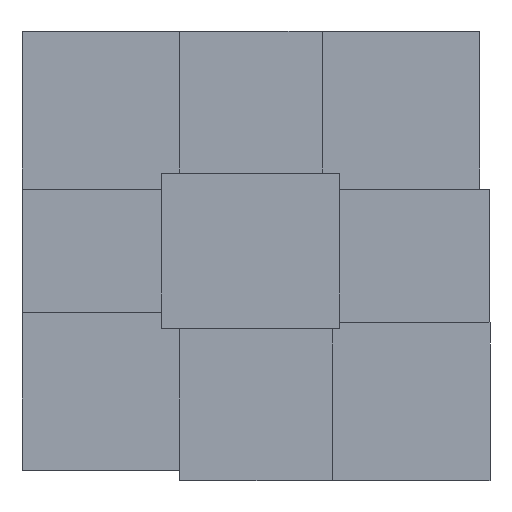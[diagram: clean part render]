
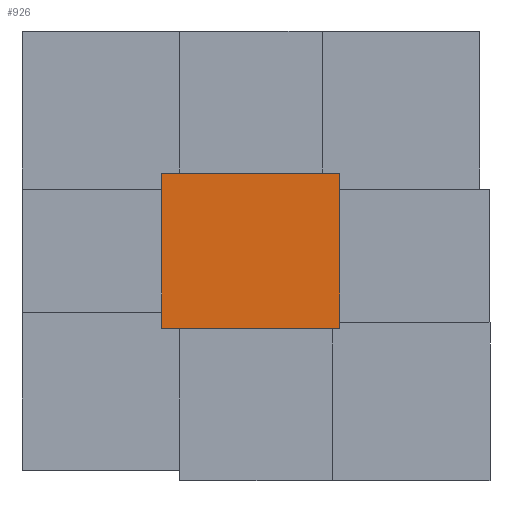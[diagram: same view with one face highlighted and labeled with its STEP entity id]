
A CAD part, left-side view. The second image highlights one B-rep face of the part: STEP entity #926.
In plain terms, the highlighted planar face has unit normal (-1, 0, 0).
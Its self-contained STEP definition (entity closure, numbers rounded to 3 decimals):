
#808=CARTESIAN_POINT('Line Origine',(0.,0.,49.)) ;
#812=CARTESIAN_POINT('Vertex',(0.,0.,0.)) ;
#814=CARTESIAN_POINT('Vertex',(0.,0.,98.)) ;
#883=CARTESIAN_POINT('Vertex',(0.,113.,0.)) ;
#886=CARTESIAN_POINT('Line Origine',(0.,113.,49.)) ;
#890=CARTESIAN_POINT('Vertex',(0.,113.,98.)) ;
#905=CARTESIAN_POINT('Axis2P3D Location',(0.,113.,0.)) ;
#910=CARTESIAN_POINT('Line Origine',(0.,56.5,0.)) ;
#915=CARTESIAN_POINT('Line Origine',(0.,56.5,98.)) ;
#809=DIRECTION('Vector Direction',(0.,0.,1.)) ;
#887=DIRECTION('Vector Direction',(0.,0.,1.)) ;
#906=DIRECTION('Axis2P3D Direction',(-1.,0.,0.)) ;
#907=DIRECTION('Axis2P3D XDirection',(0.,-1.,0.)) ;
#911=DIRECTION('Vector Direction',(0.,-1.,0.)) ;
#916=DIRECTION('Vector Direction',(0.,-1.,0.)) ;
#908=AXIS2_PLACEMENT_3D('Plane Axis2P3D',#905,#906,#907) ;
#921=ORIENTED_EDGE('',*,*,#892,.F.) ;
#922=ORIENTED_EDGE('',*,*,#914,.T.) ;
#923=ORIENTED_EDGE('',*,*,#816,.T.) ;
#924=ORIENTED_EDGE('',*,*,#919,.F.) ;
#810=VECTOR('Line Direction',#809,1.) ;
#888=VECTOR('Line Direction',#887,1.) ;
#912=VECTOR('Line Direction',#911,1.) ;
#917=VECTOR('Line Direction',#916,1.) ;
#926=ADVANCED_FACE('Body.2-molde-superior',(#925),#909,.T.) ;
#816=EDGE_CURVE('',#813,#815,#811,.T.) ;
#892=EDGE_CURVE('',#884,#891,#889,.T.) ;
#914=EDGE_CURVE('',#884,#813,#913,.T.) ;
#919=EDGE_CURVE('',#891,#815,#918,.T.) ;
#920=EDGE_LOOP('',(#921,#922,#923,#924)) ;
#925=FACE_OUTER_BOUND('',#920,.T.) ;
#811=LINE('Line',#808,#810) ;
#889=LINE('Line',#886,#888) ;
#913=LINE('Line',#910,#912) ;
#918=LINE('Line',#915,#917) ;
#909=PLANE('',#908) ;
#813=VERTEX_POINT('',#812) ;
#815=VERTEX_POINT('',#814) ;
#884=VERTEX_POINT('',#883) ;
#891=VERTEX_POINT('',#890) ;
